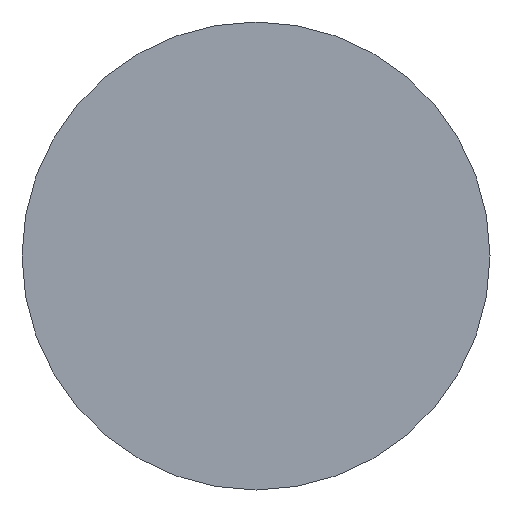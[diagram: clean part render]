
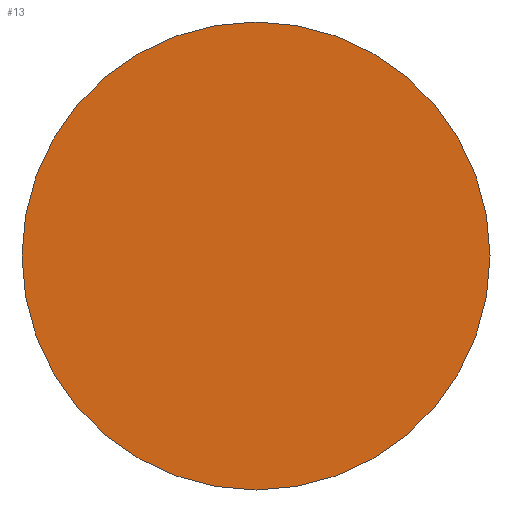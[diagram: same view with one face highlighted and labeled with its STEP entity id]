
A CAD part, front view. The second image highlights one B-rep face of the part: STEP entity #13.
In plain terms, the highlighted planar face has unit normal (0, -1, 0).
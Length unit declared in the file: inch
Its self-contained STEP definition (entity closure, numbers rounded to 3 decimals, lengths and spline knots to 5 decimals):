
#1 = CIRCLE ( 'NONE', #40, 0.05906 ) ;
#8 = DIRECTION ( 'NONE',  ( 0., 1., 0. ) ) ;
#11 = AXIS2_PLACEMENT_3D ( 'NONE', #32, #26, #113 ) ;
#13 = ADVANCED_FACE ( 'NONE', ( #72 ), #73, .F. ) ;
#14 = ORIENTED_EDGE ( 'NONE', *, *, #123, .F. ) ;
#17 = VERTEX_POINT ( 'NONE', #103 ) ;
#23 = DIRECTION ( 'NONE',  ( 0., 0., 1. ) ) ;
#26 = DIRECTION ( 'NONE',  ( 0., 1., 0. ) ) ;
#28 = CIRCLE ( 'NONE', #75, 0.05906 ) ;
#32 = CARTESIAN_POINT ( 'NONE',  ( 0., -0.21654, 0. ) ) ;
#40 = AXIS2_PLACEMENT_3D ( 'NONE', #97, #8, #120 ) ;
#43 = CARTESIAN_POINT ( 'NONE',  ( 0., -0.21654, 0. ) ) ;
#58 = EDGE_CURVE ( 'NONE', #17, #115, #1, .T. ) ;
#66 = EDGE_LOOP ( 'NONE', ( #105, #14 ) ) ;
#72 = FACE_OUTER_BOUND ( 'NONE', #66, .T. ) ;
#73 = PLANE ( 'NONE',  #11 ) ;
#75 = AXIS2_PLACEMENT_3D ( 'NONE', #43, #112, #23 ) ;
#97 = CARTESIAN_POINT ( 'NONE',  ( 0., -0.21654, 0. ) ) ;
#103 = CARTESIAN_POINT ( 'NONE',  ( 0., -0.21654, -0.05906 ) ) ;
#105 = ORIENTED_EDGE ( 'NONE', *, *, #58, .F. ) ;
#112 = DIRECTION ( 'NONE',  ( 0., 1., 0. ) ) ;
#113 = DIRECTION ( 'NONE',  ( 1., 0., 0. ) ) ;
#115 = VERTEX_POINT ( 'NONE', #118 ) ;
#118 = CARTESIAN_POINT ( 'NONE',  ( 0., -0.21654, 0.05906 ) ) ;
#120 = DIRECTION ( 'NONE',  ( 0., 0., 1. ) ) ;
#123 = EDGE_CURVE ( 'NONE', #115, #17, #28, .T. ) ;
